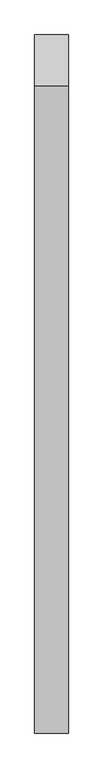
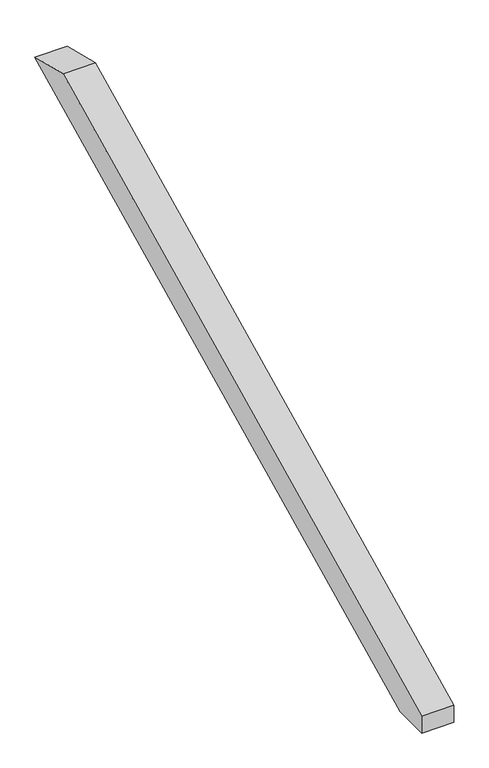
"""IFC4 building model written with IfcOpenShell, lengths in millimetres: proxy geometry, Modelos genéricos 59 : Modelos genéricos 16."""

import ifcopenshell
import ifcopenshell.guid

model = None  # the IFC model being written
_history = None  # IfcOwnerHistory: only IFC2X3 demands one
_inside = {}  # id of a spatial element -> (the spatial element, [elements in it])
_under = {}  # id of a project, library or spatial element -> (it, [spatial elements below it])
_declared = {}  # id of a project -> (the project, [libraries it declares])
_typed = {}  # id of a type object -> (the type object, [elements of that type])
_made_of = {}  # id of a material, layer set ... -> (it, [elements and type objects made of it])


def new_model(schema):
    """Start an empty IFC model of exactly this schema.

    Asked for "IFC4X3", IfcOpenShell would pick the latest addendum, in which some entities
    have other attributes; the version numbers below select the first issue.
    IFC2X3 requires an IfcOwnerHistory on every rooted entity: one is made here for all.
    """
    global model, _history
    if schema == "IFC4X3":
        model = ifcopenshell.file(schema_version=(4, 3, 0, 0))
    else:
        model = ifcopenshell.file(schema=schema)
    _inside.clear()
    _under.clear()
    _declared.clear()
    _typed.clear()
    _made_of.clear()
    _history = None
    if model.schema == "IFC2X3":
        org = make("IfcOrganization", Name="unknown")
        user = make(
            "IfcPersonAndOrganization",
            ThePerson=make("IfcPerson", FamilyName="unknown"),
            TheOrganization=org,
        )
        app = make(
            "IfcApplication",
            ApplicationDeveloper=org,
            Version="unknown",
            ApplicationFullName="unknown",
            ApplicationIdentifier="unknown",
        )
        _history = make(
            "IfcOwnerHistory",
            OwningUser=user,
            OwningApplication=app,
            ChangeAction="ADDED",
            CreationDate=0,
        )
    return model


def make(cls, **values):
    """One entity of the class cls with the attributes given. An attribute that is None is left unset."""
    return model.create_entity(
        cls, **{name: value for name, value in values.items() if value is not None}
    )


def rooted(cls, **values):
    """An entity with a GlobalId (a new one), such as an element, a storey or a relation."""
    return make(cls, GlobalId=ifcopenshell.guid.new(), OwnerHistory=_history, **values)


def si_unit(unit_type, name, prefix=None):
    """IfcSIUnit, for example si_unit("LENGTHUNIT", "METRE", prefix="MILLI")."""
    return make("IfcSIUnit", UnitType=unit_type, Prefix=prefix, Name=name)


def assignment(units):
    """IfcUnitAssignment: the units of a project."""
    return None if units is None else make("IfcUnitAssignment", Units=units)


def point(xyz):
    """IfcCartesianPoint."""
    return None if xyz is None else make("IfcCartesianPoint", Coordinates=xyz)


def direction(xyz):
    """IfcDirection."""
    return None if xyz is None else make("IfcDirection", DirectionRatios=xyz)


def frame(location, z_axis=None, x_axis=None):
    """IfcAxis2Placement3D, a coordinate frame: its origin and axes. An axis left out is left unset."""
    return make(
        "IfcAxis2Placement3D",
        Location=point(location),
        Axis=direction(z_axis),
        RefDirection=direction(x_axis),
    )


def origin():
    """The frame at (0, 0, 0) with its axes left unset."""
    return frame((0.0, 0.0, 0.0))


def place(relative_to, where):
    """IfcLocalPlacement: puts the frame where relative to a parent placement (None: the world)."""
    return make(
        "IfcLocalPlacement", PlacementRelTo=relative_to, RelativePlacement=where
    )


def context(
    kind, dimensions, precision=None, world=None, true_north=None, identifier=None
):
    """IfcGeometricRepresentationContext, for example the 3D "Model" context."""
    return make(
        "IfcGeometricRepresentationContext",
        ContextIdentifier=identifier,
        ContextType=kind,
        CoordinateSpaceDimension=dimensions,
        Precision=precision,
        WorldCoordinateSystem=world,
        TrueNorth=true_north,
    )


def project(units=None, contexts=None):
    """IfcProject with its units and contexts."""
    return rooted(
        "IfcProject",
        Name="project",
        RepresentationContexts=contexts,
        UnitsInContext=assignment(units),
    )


def spatial(cls, under=None, at=None, **own):
    """A site, building, storey or space (cls), placed at a placement, below another one or the project."""
    s = rooted(cls, ObjectPlacement=at, **own)
    if under is not None:
        _under.setdefault(under.id(), (under, []))[1].append(s)
    return s


def polyline(points):
    """IfcPolyline through the points."""
    return make("IfcPolyline", Points=[point(p) for p in points])


def outline(outer, holes=None, kind="AREA"):
    """IfcArbitraryClosedProfileDef: a profile drawn as a closed curve; with holes, ...WithVoids."""
    if holes is None:
        return make("IfcArbitraryClosedProfileDef", ProfileType=kind, OuterCurve=outer)
    return make(
        "IfcArbitraryProfileDefWithVoids",
        ProfileType=kind,
        OuterCurve=outer,
        InnerCurves=holes,
    )


def extrude(swept, where, along, depth):
    """IfcExtrudedAreaSolid: the profile swept, set in the frame where, extruded along a direction by depth."""
    return make(
        "IfcExtrudedAreaSolid",
        SweptArea=swept,
        Position=where,
        ExtrudedDirection=direction(along),
        Depth=depth,
    )


def shape(context_of_items, identifier, shape_type, items):
    """IfcShapeRepresentation: the items that make up one representation, for example the "Body"."""
    return make(
        "IfcShapeRepresentation",
        ContextOfItems=context_of_items,
        RepresentationIdentifier=identifier,
        RepresentationType=shape_type,
        Items=items,
    )


def source(mapping_origin, context_of_items, identifier, shape_type, items):
    """IfcRepresentationMap: a shape defined once, which mapped items show again and again."""
    return make(
        "IfcRepresentationMap",
        MappingOrigin=mapping_origin,
        MappedRepresentation=shape(context_of_items, identifier, shape_type, items),
    )


def transform(
    local_origin,
    x_axis=None,
    y_axis=None,
    z_axis=None,
    scale=None,
    scale2=None,
    scale3=None,
    uniform=True,
):
    """IfcCartesianTransformationOperator3D, or its non-uniform kind. x_axis, y_axis, z_axis: its Axis1, 2, 3."""
    if uniform:
        return make(
            "IfcCartesianTransformationOperator3D",
            Axis1=direction(x_axis),
            Axis2=direction(y_axis),
            LocalOrigin=point(local_origin),
            Scale=scale,
            Axis3=direction(z_axis),
        )
    return make(
        "IfcCartesianTransformationOperator3DnonUniform",
        Axis1=direction(x_axis),
        Axis2=direction(y_axis),
        LocalOrigin=point(local_origin),
        Scale=scale,
        Axis3=direction(z_axis),
        Scale2=scale2,
        Scale3=scale3,
    )


def mapped(mapping_source, mapping_target):
    """IfcMappedItem: shows the shape of a source again, moved by a transform."""
    return make(
        "IfcMappedItem", MappingSource=mapping_source, MappingTarget=mapping_target
    )


def made_of(thing, what):
    """Note that an element or type object is made of a material, layer set ...; save() writes the relation."""
    if what is not None:
        _made_of.setdefault(what.id(), (what, []))[1].append(thing)
    return thing


def element(
    cls,
    number,
    at=None,
    inside=None,
    cuts=None,
    type_object=None,
    material=None,
    context=None,
    identifier="Body",
    shape_type=None,
    held_by="IfcProductDefinitionShape",
    body=None,
    shapes=None,
    **own,
):
    """One element of the class cls, such as IfcWall. Its Tag is "e" and its number.

    at: its placement. inside: the storey or other place that contains it. cuts: it is an
    opening in that element (IfcRelVoidsElement). A single representation is given by context,
    identifier, shape_type and body (its items); several are given by shapes. held_by: the class
    of the entity that holds the representations. save() writes the other relations.
    """
    e = rooted(cls, Tag="e%d" % number, ObjectPlacement=at, **own)
    if body is not None:
        shapes = [shape(context, identifier, shape_type, body)]
    if shapes is not None:
        e.Representation = make(held_by, Representations=shapes)
    if inside is not None:
        _inside.setdefault(inside.id(), (inside, []))[1].append(e)
    if cuts is not None:
        rooted(
            "IfcRelVoidsElement", RelatingBuildingElement=cuts, RelatedOpeningElement=e
        )
    if type_object is not None:
        _typed.setdefault(type_object.id(), (type_object, []))[1].append(e)
    return made_of(e, material)


def aggregate(whole, parts):
    """IfcRelAggregates: a whole, such as a stair, and the parts it consists of."""
    return rooted("IfcRelAggregates", RelatingObject=whole, RelatedObjects=parts)


def save(model, path):
    """Write the relations noted so far, then the file.

    IfcRelAggregates (storeys below a building ...), IfcRelContainedInSpatialStructure (elements
    in a storey), IfcRelDefinesByType, IfcRelAssociatesMaterial and IfcRelDeclares: one each for
    every whole, place, type object, material and project.
    """
    for whole, parts in _under.values():
        aggregate(whole, parts)
    for where, things in _inside.values():
        rooted(
            "IfcRelContainedInSpatialStructure",
            RelatedElements=things,
            RelatingStructure=where,
        )
    for kind, things in _typed.values():
        rooted("IfcRelDefinesByType", RelatedObjects=things, RelatingType=kind)
    for what, things in _made_of.values():
        rooted("IfcRelAssociatesMaterial", RelatedObjects=things, RelatingMaterial=what)
    for by, libraries in _declared.values():
        rooted("IfcRelDeclares", RelatingContext=by, RelatedDefinitions=libraries)
    model.write(path)


def generic_models_5e919536(model_context):
    return source(origin(), model_context, "Body", "SweptSolid", [
        extrude(outline(polyline([(3173.8548825, 3756.8218964), (3264.4256133, 3734.240077), (2087.0589775, 3160.0), (2018.6238165, 3160.0), (2018.6238165, 3193.3780582), (3173.8548825, 3756.8218964)])), frame((-5376.5527533, 0.0, 0.0), z_axis=(1.0, 0.0, 0.0), x_axis=(0.0, 1.0, 0.0)), (0.0, 0.0, 1.0), 60.0),
    ])


if __name__ == "__main__":
    model = new_model("IFC4")
    model_context = context("Model", 3, world=origin())
    ifc_project = project(units=[si_unit("LENGTHUNIT", "METRE", prefix="MILLI")], contexts=[model_context])
    site = spatial("IfcSite", under=ifc_project)
    building = spatial("IfcBuilding", under=site)
    placement = place(None, origin())
    generic_models_shape = generic_models_5e919536(model_context)
    element("IfcBuildingElementProxy", 1, Name="Modelos genéricos 59 : Modelos genéricos 16", ObjectType="Modelos genéricos 59 : Modelos genéricos 16", at=placement, inside=building, context=model_context, shape_type="MappedRepresentation", body=[
        mapped(generic_models_shape, transform((0.0, 0.0, 0.0), x_axis=(1.0, 0.0, 0.0), y_axis=(0.0, 1.0, 0.0), z_axis=(0.0, 0.0, 1.0))),
    ])
    save(model, "model.ifc")
